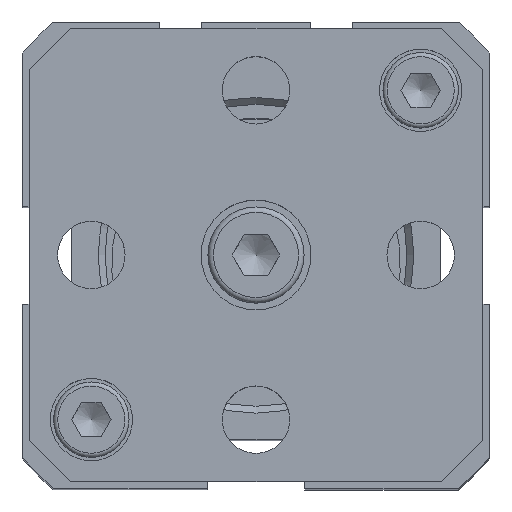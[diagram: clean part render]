
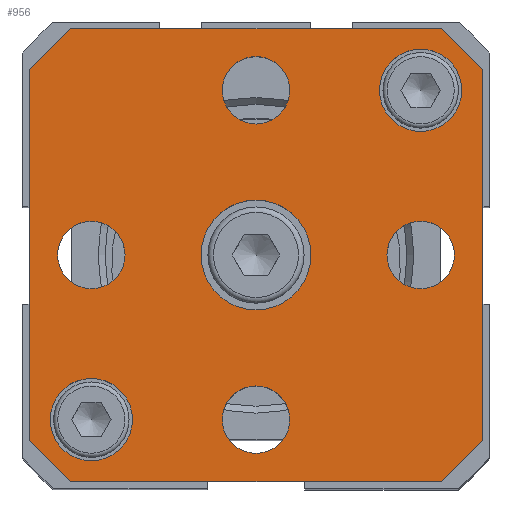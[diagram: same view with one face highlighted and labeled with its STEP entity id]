
A CAD part, top view. The second image highlights one B-rep face of the part: STEP entity #956.
In plain terms, the highlighted planar face has unit normal (0, 0, 1).
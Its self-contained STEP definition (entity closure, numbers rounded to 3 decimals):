
#273=CARTESIAN_POINT('',(9.24,13.683,73.0));
#274=VERTEX_POINT('',#273);
#275=CARTESIAN_POINT('',(12.24,13.683,73.0));
#276=DIRECTION('',(0.0,0.0,-1.0));
#277=DIRECTION('',(-1.0,0.0,0.0));
#278=AXIS2_PLACEMENT_3D('',#275,#276,#277);
#279=CIRCLE('',#278,3.);
#280=EDGE_CURVE('',#274,#274,#279,.T.);
#342=CARTESIAN_POINT('',(-14.76,-10.317,73.0));
#343=VERTEX_POINT('',#342);
#344=CARTESIAN_POINT('',(-11.76,-10.317,73.0));
#345=DIRECTION('',(0.0,0.0,-1.0));
#346=DIRECTION('',(-1.0,0.0,0.0));
#347=AXIS2_PLACEMENT_3D('',#344,#345,#346);
#348=CIRCLE('',#347,3.);
#349=EDGE_CURVE('',#343,#343,#348,.T.);
#383=CARTESIAN_POINT('',(-14.218,1.683,73.0));
#384=VERTEX_POINT('',#383);
#385=CARTESIAN_POINT('',(-11.76,1.683,73.0));
#386=DIRECTION('',(0.0,0.0,-1.0));
#387=DIRECTION('',(-1.0,0.0,0.0));
#388=AXIS2_PLACEMENT_3D('',#385,#386,#387);
#389=CIRCLE('',#388,2.459);
#390=EDGE_CURVE('',#384,#384,#389,.T.);
#432=CARTESIAN_POINT('',(-2.218,13.683,73.0));
#433=VERTEX_POINT('',#432);
#434=CARTESIAN_POINT('',(0.24,13.683,73.0));
#435=DIRECTION('',(0.0,0.0,-1.0));
#436=DIRECTION('',(-1.0,0.0,0.0));
#437=AXIS2_PLACEMENT_3D('',#434,#435,#436);
#438=CIRCLE('',#437,2.459);
#439=EDGE_CURVE('',#433,#433,#438,.T.);
#481=CARTESIAN_POINT('',(9.782,1.683,73.0));
#482=VERTEX_POINT('',#481);
#483=CARTESIAN_POINT('',(12.24,1.683,73.0));
#484=DIRECTION('',(0.0,0.0,-1.0));
#485=DIRECTION('',(-1.0,0.0,0.0));
#486=AXIS2_PLACEMENT_3D('',#483,#484,#485);
#487=CIRCLE('',#486,2.459);
#488=EDGE_CURVE('',#482,#482,#487,.T.);
#530=CARTESIAN_POINT('',(-2.218,-10.317,73.0));
#531=VERTEX_POINT('',#530);
#532=CARTESIAN_POINT('',(0.24,-10.317,73.0));
#533=DIRECTION('',(0.0,0.0,-1.0));
#534=DIRECTION('',(-1.0,0.0,0.0));
#535=AXIS2_PLACEMENT_3D('',#532,#533,#534);
#536=CIRCLE('',#535,2.459);
#537=EDGE_CURVE('',#531,#531,#536,.T.);
#579=CARTESIAN_POINT('',(-3.76,1.683,73.0));
#580=VERTEX_POINT('',#579);
#581=CARTESIAN_POINT('',(0.24,1.683,73.0));
#582=DIRECTION('',(0.0,0.0,-1.0));
#583=DIRECTION('',(-1.0,0.0,0.0));
#584=AXIS2_PLACEMENT_3D('',#581,#582,#583);
#585=CIRCLE('',#584,4.0);
#586=EDGE_CURVE('',#580,#580,#585,.T.);
#640=CARTESIAN_POINT('',(16.74,15.183,73.0));
#641=VERTEX_POINT('',#640);
#642=CARTESIAN_POINT('',(16.74,-11.817,73.0));
#643=VERTEX_POINT('',#642);
#644=CARTESIAN_POINT('',(16.74,15.183,73.0));
#645=DIRECTION('',(0.0,-1.0,0.0));
#646=VECTOR('',#645,27.);
#647=LINE('',#644,#646);
#648=EDGE_CURVE('',#641,#643,#647,.T.);
#680=CARTESIAN_POINT('',(13.74,-14.817,73.0));
#681=VERTEX_POINT('',#680);
#682=CARTESIAN_POINT('',(16.74,-11.817,73.0));
#683=DIRECTION('',(-0.707,-0.707,0.0));
#684=VECTOR('',#683,4.243);
#685=LINE('',#682,#684);
#686=EDGE_CURVE('',#643,#681,#685,.T.);
#711=CARTESIAN_POINT('',(-13.26,-14.817,73.0));
#712=VERTEX_POINT('',#711);
#713=CARTESIAN_POINT('',(13.74,-14.817,73.0));
#714=DIRECTION('',(-1.0,0.0,0.0));
#715=VECTOR('',#714,27.);
#716=LINE('',#713,#715);
#717=EDGE_CURVE('',#681,#712,#716,.T.);
#742=CARTESIAN_POINT('',(-16.26,-11.817,73.0));
#743=VERTEX_POINT('',#742);
#744=CARTESIAN_POINT('',(-13.26,-14.817,73.0));
#745=DIRECTION('',(-0.707,0.707,0.0));
#746=VECTOR('',#745,4.243);
#747=LINE('',#744,#746);
#748=EDGE_CURVE('',#712,#743,#747,.T.);
#773=CARTESIAN_POINT('',(-16.26,15.183,73.0));
#774=VERTEX_POINT('',#773);
#775=CARTESIAN_POINT('',(-16.26,-11.817,73.0));
#776=DIRECTION('',(0.0,1.0,0.0));
#777=VECTOR('',#776,27.);
#778=LINE('',#775,#777);
#779=EDGE_CURVE('',#743,#774,#778,.T.);
#804=CARTESIAN_POINT('',(-13.26,18.183,73.0));
#805=VERTEX_POINT('',#804);
#806=CARTESIAN_POINT('',(-16.26,15.183,73.0));
#807=DIRECTION('',(0.707,0.707,0.0));
#808=VECTOR('',#807,4.243);
#809=LINE('',#806,#808);
#810=EDGE_CURVE('',#774,#805,#809,.T.);
#835=CARTESIAN_POINT('',(13.74,18.183,73.0));
#836=VERTEX_POINT('',#835);
#837=CARTESIAN_POINT('',(-13.26,18.183,73.0));
#838=DIRECTION('',(1.0,0.0,0.0));
#839=VECTOR('',#838,27.);
#840=LINE('',#837,#839);
#841=EDGE_CURVE('',#805,#836,#840,.T.);
#866=CARTESIAN_POINT('',(13.74,18.183,73.0));
#867=DIRECTION('',(0.707,-0.707,0.0));
#868=VECTOR('',#867,4.243);
#869=LINE('',#866,#868);
#870=EDGE_CURVE('',#836,#641,#869,.T.);
#920=CARTESIAN_POINT('',(0.24,1.683,73.0));
#921=DIRECTION('',(0.0,0.0,1.0));
#922=DIRECTION('',(1.0,0.0,0.0));
#923=AXIS2_PLACEMENT_3D('',#920,#921,#922);
#924=PLANE('',#923);
#925=ORIENTED_EDGE('',*,*,#648,.F.);
#926=ORIENTED_EDGE('',*,*,#870,.F.);
#927=ORIENTED_EDGE('',*,*,#841,.F.);
#928=ORIENTED_EDGE('',*,*,#810,.F.);
#929=ORIENTED_EDGE('',*,*,#779,.F.);
#930=ORIENTED_EDGE('',*,*,#748,.F.);
#931=ORIENTED_EDGE('',*,*,#717,.F.);
#932=ORIENTED_EDGE('',*,*,#686,.F.);
#933=EDGE_LOOP('',(#925,#926,#927,#928,#929,#930,#931,#932));
#934=FACE_OUTER_BOUND('',#933,.T.);
#935=ORIENTED_EDGE('',*,*,#280,.T.);
#936=EDGE_LOOP('',(#935));
#937=FACE_BOUND('',#936,.T.);
#938=ORIENTED_EDGE('',*,*,#349,.T.);
#939=EDGE_LOOP('',(#938));
#940=FACE_BOUND('',#939,.T.);
#941=ORIENTED_EDGE('',*,*,#390,.T.);
#942=EDGE_LOOP('',(#941));
#943=FACE_BOUND('',#942,.T.);
#944=ORIENTED_EDGE('',*,*,#439,.T.);
#945=EDGE_LOOP('',(#944));
#946=FACE_BOUND('',#945,.T.);
#947=ORIENTED_EDGE('',*,*,#488,.T.);
#948=EDGE_LOOP('',(#947));
#949=FACE_BOUND('',#948,.T.);
#950=ORIENTED_EDGE('',*,*,#537,.T.);
#951=EDGE_LOOP('',(#950));
#952=FACE_BOUND('',#951,.T.);
#953=ORIENTED_EDGE('',*,*,#586,.T.);
#954=EDGE_LOOP('',(#953));
#955=FACE_BOUND('',#954,.T.);
#956=ADVANCED_FACE('',(#934,#937,#940,#943,#946,#949,#952,#955),#924,.T.);
